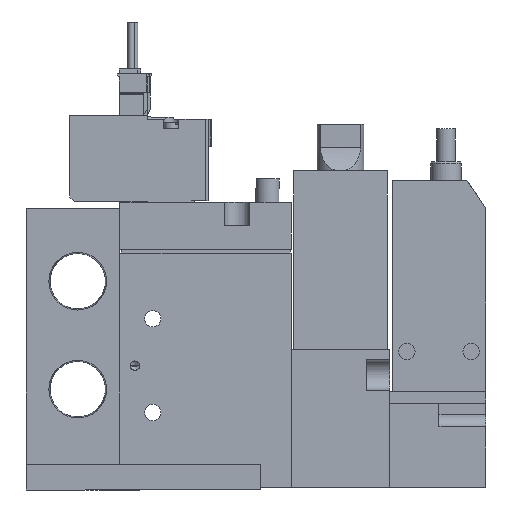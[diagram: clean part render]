
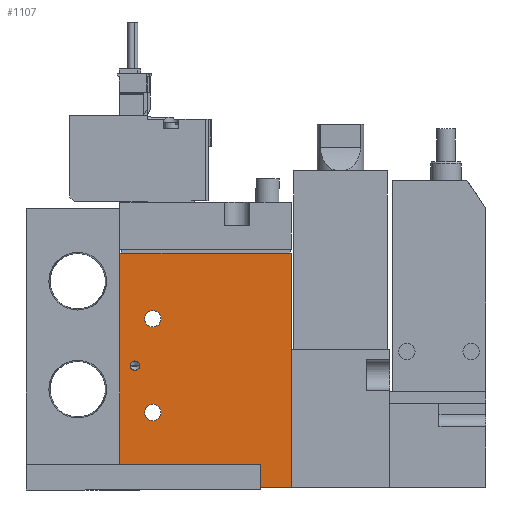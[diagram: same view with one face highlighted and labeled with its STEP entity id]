
A CAD part, left-side view. The second image highlights one B-rep face of the part: STEP entity #1107.
In plain terms, the highlighted planar face has unit normal (-1, 0, 0) as drawn and (1, 0, 0) by its records, which use the part's own axes.
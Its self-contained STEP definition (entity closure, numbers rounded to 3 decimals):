
#1107=ADVANCED_FACE('',(#1706,#1707,#1708,#1709),#1710,.F.);
#1706=FACE_BOUND('',#2733,.T.);
#1707=FACE_BOUND('',#2734,.T.);
#1708=FACE_BOUND('',#2735,.T.);
#1709=FACE_OUTER_BOUND('',#2736,.T.);
#1710=PLANE('',#2737);
#2733=EDGE_LOOP('',(#4628));
#2734=EDGE_LOOP('',(#4629));
#2735=EDGE_LOOP('',(#4630));
#2736=EDGE_LOOP('',(#4631,#4632,#4633,#4634));
#2737=AXIS2_PLACEMENT_3D('',#4635,#4636,#4637);
#4628=ORIENTED_EDGE('',*,*,#7170,.F.);
#4629=ORIENTED_EDGE('',*,*,#7188,.T.);
#4630=ORIENTED_EDGE('',*,*,#7189,.T.);
#4631=ORIENTED_EDGE('',*,*,#7187,.T.);
#4632=ORIENTED_EDGE('',*,*,#7178,.F.);
#4633=ORIENTED_EDGE('',*,*,#7190,.F.);
#4634=ORIENTED_EDGE('',*,*,#7172,.T.);
#4635=CARTESIAN_POINT('',(8.5,-19.444,50.0));
#4636=DIRECTION('',(-1.0,0.0,0.0));
#4637=DIRECTION('',(0.0,0.0,1.0));
#7170=EDGE_CURVE('',#8441,#8441,#8442,.T.);
#7172=EDGE_CURVE('',#8446,#8444,#8447,.T.);
#7178=EDGE_CURVE('',#8456,#8451,#8458,.T.);
#7187=EDGE_CURVE('',#8444,#8451,#8473,.T.);
#7188=EDGE_CURVE('',#8474,#8474,#8475,.T.);
#7189=EDGE_CURVE('',#8476,#8476,#8477,.T.);
#7190=EDGE_CURVE('',#8446,#8456,#8478,.T.);
#8441=VERTEX_POINT('',#10561);
#8442=CIRCLE('',#10562,1.0);
#8444=VERTEX_POINT('',#10564);
#8446=VERTEX_POINT('',#10567);
#8447=LINE('',#10568,#10569);
#8451=VERTEX_POINT('',#10575);
#8456=VERTEX_POINT('',#10582);
#8458=LINE('',#10585,#10586);
#8473=LINE('',#10603,#10604);
#8474=VERTEX_POINT('',#10605);
#8475=CIRCLE('',#10606,1.75);
#8476=VERTEX_POINT('',#10607);
#8477=CIRCLE('',#10608,1.75);
#8478=LINE('',#10609,#10610);
#10561=CARTESIAN_POINT('',(8.5,-17.244,26.0));
#10562=AXIS2_PLACEMENT_3D('',#12638,#12639,#12640);
#10564=CARTESIAN_POINT('',(8.5,-19.444,0.0));
#10567=CARTESIAN_POINT('',(8.5,-19.444,50.0));
#10568=CARTESIAN_POINT('',(8.5,-19.444,50.0));
#10569=VECTOR('',#12642,1.0);
#10575=CARTESIAN_POINT('',(8.5,17.056,0.0));
#10582=CARTESIAN_POINT('',(8.5,17.056,50.0));
#10585=CARTESIAN_POINT('',(8.5,17.056,50.0));
#10586=VECTOR('',#12648,1.0);
#10603=CARTESIAN_POINT('',(8.5,-19.444,0.0));
#10604=VECTOR('',#12669,1.0);
#10605=CARTESIAN_POINT('',(8.5,-10.694,36.0));
#10606=AXIS2_PLACEMENT_3D('',#12670,#12671,#12672);
#10607=CARTESIAN_POINT('',(8.5,-10.694,16.0));
#10608=AXIS2_PLACEMENT_3D('',#12673,#12674,#12675);
#10609=CARTESIAN_POINT('',(8.5,-19.444,50.0));
#10610=VECTOR('',#12676,1.0);
#12638=CARTESIAN_POINT('',(8.5,-16.244,26.0));
#12639=DIRECTION('',(1.0,0.,0.0));
#12640=DIRECTION('',(0.,-1.0,0.0));
#12642=DIRECTION('',(0.0,0.0,-1.0));
#12648=DIRECTION('',(0.0,0.0,-1.0));
#12669=DIRECTION('',(0.0,1.0,0.0));
#12670=CARTESIAN_POINT('',(8.5,-12.444,36.0));
#12671=DIRECTION('',(-1.0,0.0,0.0));
#12672=DIRECTION('',(0.0,1.0,0.0));
#12673=CARTESIAN_POINT('',(8.5,-12.444,16.0));
#12674=DIRECTION('',(-1.0,0.0,0.0));
#12675=DIRECTION('',(0.0,1.0,0.0));
#12676=DIRECTION('',(0.0,1.0,0.0));
